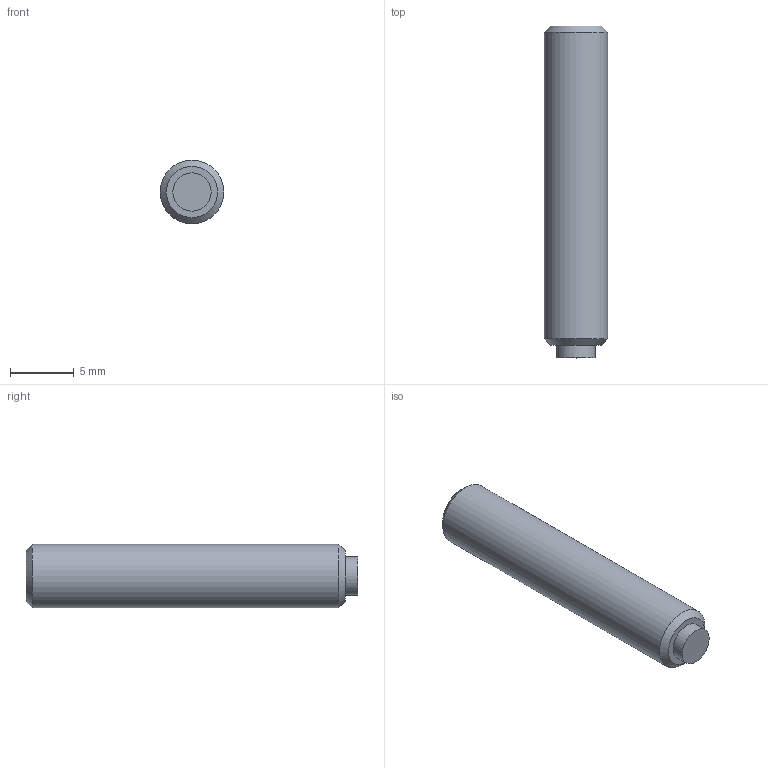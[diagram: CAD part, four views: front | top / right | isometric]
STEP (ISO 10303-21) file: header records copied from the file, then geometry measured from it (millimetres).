
FILE_DESCRIPTION( ( 'STEP AP203' ), '1' );
FILE_NAME( 'C:/Temp/Ganter_Step_05_03_2020/data/3_2/gn913_3/Grub screw GN 913.3-M5-25-KU.stp', '2020-03-13T05:35:35', ( 'License CC BY-ND 4.0' ), ( 'CADENAS' ), ' ', 'PARTsolutions', ' ' );
FILE_SCHEMA( ( 'CONFIG_CONTROL_DESIGN' ) );
Length unit declared in the file: millimetre
Products named in the file (1): _Grub screw GN 913.3-M5-25-KU
Bounding box: 5 x 26 x 5 mm (x, y, z)
Volume: 478.2 mm3; surface area: 457.7 mm2
Topology: 1 solids, 1 shells, 14 faces, 28 edges, 18 vertices
Faces by surface type: plane 10, cylinder 2, cone 2
Full cylindrical faces by diameter (mm): 3 x1, 5 x1
Entity records: 386 total; most frequent: DIRECTION 60, CARTESIAN_POINT 57, ORIENTED_EDGE 48, EDGE_CURVE 24, AXIS2_PLACEMENT_3D 21, EDGE_LOOP 20, VERTEX_POINT 18, LINE 18
